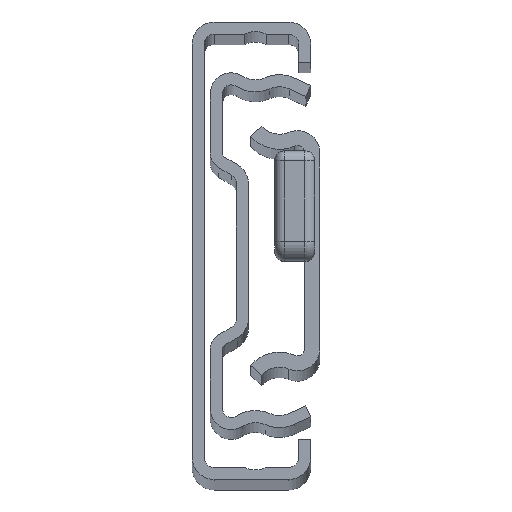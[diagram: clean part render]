
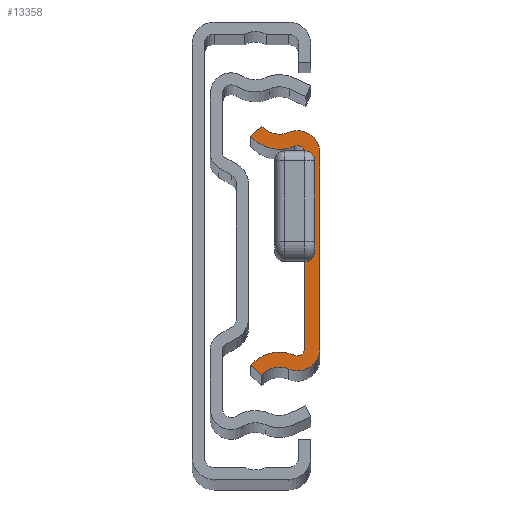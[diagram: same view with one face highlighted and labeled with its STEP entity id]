
A CAD part, top view. The second image highlights one B-rep face of the part: STEP entity #13358.
In plain terms, the highlighted planar face has unit normal (0, 0, 1).
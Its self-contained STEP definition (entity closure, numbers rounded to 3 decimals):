
#27 = VERTEX_POINT ( 'NONE', #16889 ) ;
#293 = AXIS2_PLACEMENT_3D ( 'NONE', #5636, #7679, #10012 ) ;
#298 = DIRECTION ( 'NONE',  ( -0.745, -0.667, 0. ) ) ;
#389 = CIRCLE ( 'NONE', #5137, 0.726 ) ;
#1391 = ORIENTED_EDGE ( 'NONE', *, *, #20357, .T. ) ;
#1961 = CARTESIAN_POINT ( 'NONE',  ( 1.224, 9.725, 0. ) ) ;
#2101 = ORIENTED_EDGE ( 'NONE', *, *, #4752, .T. ) ;
#2334 = EDGE_CURVE ( 'NONE', #21838, #5818, #29185, .T. ) ;
#2365 = CARTESIAN_POINT ( 'NONE',  ( -3.45, 11.377, 0. ) ) ;
#2483 = VECTOR ( 'NONE', #21311, 1000. ) ;
#2591 = CARTESIAN_POINT ( 'NONE',  ( -2.333, 12.378, 0. ) ) ;
#2611 = AXIS2_PLACEMENT_3D ( 'NONE', #9293, #25419, #11904 ) ;
#3123 = AXIS2_PLACEMENT_3D ( 'NONE', #22701, #20091, #4205 ) ;
#3805 = DIRECTION ( 'NONE',  ( 0.745, -0.667, 0. ) ) ;
#3980 = DIRECTION ( 'NONE',  ( -1., 0., 0. ) ) ;
#4205 = DIRECTION ( 'NONE',  ( 1., 0., 0. ) ) ;
#4752 = EDGE_CURVE ( 'NONE', #27575, #28710, #25256, .T. ) ;
#4769 = EDGE_LOOP ( 'NONE', ( #1391, #14970, #25004, #18374, #8769, #9673, #23376, #7511, #25654, #15231, #2101, #29644 ) ) ;
#4917 = CARTESIAN_POINT ( 'NONE',  ( 1.95, -9.725, 0. ) ) ;
#5137 = AXIS2_PLACEMENT_3D ( 'NONE', #1961, #18186, #3980 ) ;
#5153 = CARTESIAN_POINT ( 'NONE',  ( 1.95, -9.725, 0. ) ) ;
#5276 = FACE_OUTER_BOUND ( 'NONE', #4769, .T. ) ;
#5392 = VERTEX_POINT ( 'NONE', #6989 ) ;
#5549 = AXIS2_PLACEMENT_3D ( 'NONE', #27984, #14220, #28374 ) ;
#5636 = CARTESIAN_POINT ( 'NONE',  ( -0.564, 13.97, 0. ) ) ;
#5818 = VERTEX_POINT ( 'NONE', #25096 ) ;
#5934 = CARTESIAN_POINT ( 'NONE',  ( -0.564, 13.97, 0. ) ) ;
#6022 = DIRECTION ( 'NONE',  ( 0., 0., 1. ) ) ;
#6242 = CARTESIAN_POINT ( 'NONE',  ( -3.45, -11.377, 0. ) ) ;
#6989 = CARTESIAN_POINT ( 'NONE',  ( 0.36, 11.777, 0. ) ) ;
#7330 = EDGE_CURVE ( 'NONE', #20508, #21838, #25120, .T. ) ;
#7511 = ORIENTED_EDGE ( 'NONE', *, *, #9756, .T. ) ;
#7679 = DIRECTION ( 'NONE',  ( 0., 0., 1. ) ) ;
#7729 = CARTESIAN_POINT ( 'NONE',  ( 3.45, -9.725, 0. ) ) ;
#7739 = VERTEX_POINT ( 'NONE', #4917 ) ;
#8136 = EDGE_CURVE ( 'NONE', #18723, #8284, #19684, .T. ) ;
#8238 = CARTESIAN_POINT ( 'NONE',  ( -0.564, -13.97, 0. ) ) ;
#8284 = VERTEX_POINT ( 'NONE', #2365 ) ;
#8474 = CARTESIAN_POINT ( 'NONE',  ( 0.36, -11.777, 0. ) ) ;
#8769 = ORIENTED_EDGE ( 'NONE', *, *, #20018, .T. ) ;
#8986 = CIRCLE ( 'NONE', #293, 3.88 ) ;
#9064 = CARTESIAN_POINT ( 'NONE',  ( 1.224, 9.725, 0. ) ) ;
#9173 = DIRECTION ( 'NONE',  ( -1., 0., 0. ) ) ;
#9259 = DIRECTION ( 'NONE',  ( 0., 0., 1. ) ) ;
#9293 = CARTESIAN_POINT ( 'NONE',  ( -0.564, -13.97, 0. ) ) ;
#9536 = CARTESIAN_POINT ( 'NONE',  ( 0.942, -10.394, 0. ) ) ;
#9673 = ORIENTED_EDGE ( 'NONE', *, *, #8136, .T. ) ;
#9756 = EDGE_CURVE ( 'NONE', #19288, #27, #389, .T. ) ;
#10012 = DIRECTION ( 'NONE',  ( -1., 0., 0. ) ) ;
#10226 = VECTOR ( 'NONE', #3805, 1000. ) ;
#10356 = PLANE ( 'NONE',  #29297 ) ;
#10417 = CARTESIAN_POINT ( 'NONE',  ( 1.224, -9.725, 0. ) ) ;
#10736 = CARTESIAN_POINT ( 'NONE',  ( 3.45, -9.725, 0. ) ) ;
#11877 = CARTESIAN_POINT ( 'NONE',  ( -3.45, 11.377, 0. ) ) ;
#11904 = DIRECTION ( 'NONE',  ( 1., 0., 0. ) ) ;
#12512 = CIRCLE ( 'NONE', #13232, 2.226 ) ;
#12850 = DIRECTION ( 'NONE',  ( 1., 0., 0. ) ) ;
#13232 = AXIS2_PLACEMENT_3D ( 'NONE', #9064, #9259, #9173 ) ;
#13358 = ADVANCED_FACE ( 'Face2', ( #5276 ), #10356, .T. ) ;
#14220 = DIRECTION ( 'NONE',  ( 0., 0., -1. ) ) ;
#14644 = CARTESIAN_POINT ( 'NONE',  ( -3.45, -11.377, 0. ) ) ;
#14970 = ORIENTED_EDGE ( 'NONE', *, *, #7330, .T. ) ;
#15012 = DIRECTION ( 'NONE',  ( 1., 0., 0. ) ) ;
#15063 = DIRECTION ( 'NONE',  ( 0., 0., 1. ) ) ;
#15231 = ORIENTED_EDGE ( 'NONE', *, *, #29273, .T. ) ;
#15543 = VECTOR ( 'NONE', #17634, 1000. ) ;
#16026 = LINE ( 'NONE', #6242, #10226 ) ;
#16571 = AXIS2_PLACEMENT_3D ( 'NONE', #5934, #19788, #24506 ) ;
#16889 = CARTESIAN_POINT ( 'NONE',  ( 1.95, 9.725, 0. ) ) ;
#17373 = EDGE_CURVE ( 'NONE', #27, #7739, #27025, .T. ) ;
#17634 = DIRECTION ( 'NONE',  ( 0., 1., 0. ) ) ;
#17939 = CIRCLE ( 'NONE', #2611, 2.38 ) ;
#18186 = DIRECTION ( 'NONE',  ( 0., 0., -1. ) ) ;
#18374 = ORIENTED_EDGE ( 'NONE', *, *, #18577, .T. ) ;
#18577 = EDGE_CURVE ( 'NONE', #5818, #5392, #12512, .T. ) ;
#18723 = VERTEX_POINT ( 'NONE', #2591 ) ;
#19288 = VERTEX_POINT ( 'NONE', #28436 ) ;
#19684 = LINE ( 'NONE', #11877, #21108 ) ;
#19788 = DIRECTION ( 'NONE',  ( 0., 0., -1. ) ) ;
#20018 = EDGE_CURVE ( 'NONE', #5392, #18723, #27955, .T. ) ;
#20091 = DIRECTION ( 'NONE',  ( 0., 0., 1. ) ) ;
#20304 = CIRCLE ( 'NONE', #5549, 0.726 ) ;
#20357 = EDGE_CURVE ( 'NONE', #24207, #20508, #17939, .T. ) ;
#20508 = VERTEX_POINT ( 'NONE', #8474 ) ;
#21108 = VECTOR ( 'NONE', #298, 1000. ) ;
#21311 = DIRECTION ( 'NONE',  ( 0., -1., 0. ) ) ;
#21838 = VERTEX_POINT ( 'NONE', #7729 ) ;
#22701 = CARTESIAN_POINT ( 'NONE',  ( -0.564, -13.97, 0. ) ) ;
#22904 = AXIS2_PLACEMENT_3D ( 'NONE', #10417, #15063, #12850 ) ;
#23376 = ORIENTED_EDGE ( 'NONE', *, *, #25101, .T. ) ;
#24207 = VERTEX_POINT ( 'NONE', #24381 ) ;
#24381 = CARTESIAN_POINT ( 'NONE',  ( -2.333, -12.378, 0. ) ) ;
#24506 = DIRECTION ( 'NONE',  ( -1., 0., 0. ) ) ;
#25004 = ORIENTED_EDGE ( 'NONE', *, *, #2334, .T. ) ;
#25096 = CARTESIAN_POINT ( 'NONE',  ( 3.45, 9.725, 0. ) ) ;
#25101 = EDGE_CURVE ( 'NONE', #8284, #19288, #8986, .T. ) ;
#25120 = CIRCLE ( 'NONE', #22904, 2.226 ) ;
#25256 = CIRCLE ( 'NONE', #3123, 3.88 ) ;
#25419 = DIRECTION ( 'NONE',  ( 0., 0., -1. ) ) ;
#25654 = ORIENTED_EDGE ( 'NONE', *, *, #17373, .T. ) ;
#27025 = LINE ( 'NONE', #5153, #2483 ) ;
#27575 = VERTEX_POINT ( 'NONE', #9536 ) ;
#27955 = CIRCLE ( 'NONE', #16571, 2.38 ) ;
#27984 = CARTESIAN_POINT ( 'NONE',  ( 1.224, -9.725, 0. ) ) ;
#28374 = DIRECTION ( 'NONE',  ( 1., 0., 0. ) ) ;
#28436 = CARTESIAN_POINT ( 'NONE',  ( 0.942, 10.394, 0. ) ) ;
#28479 = EDGE_CURVE ( 'NONE', #28710, #24207, #16026, .T. ) ;
#28710 = VERTEX_POINT ( 'NONE', #14644 ) ;
#29185 = LINE ( 'NONE', #10736, #15543 ) ;
#29273 = EDGE_CURVE ( 'NONE', #7739, #27575, #20304, .T. ) ;
#29297 = AXIS2_PLACEMENT_3D ( 'NONE', #8238, #6022, #15012 ) ;
#29644 = ORIENTED_EDGE ( 'NONE', *, *, #28479, .T. ) ;
